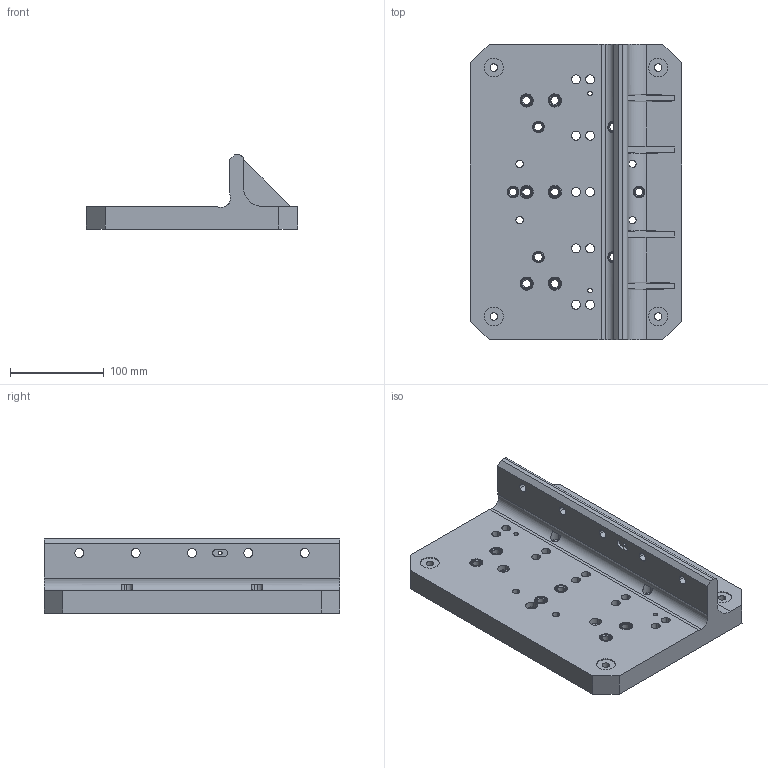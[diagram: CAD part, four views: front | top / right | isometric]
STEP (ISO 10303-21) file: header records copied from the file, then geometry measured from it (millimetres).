
FILE_DESCRIPTION(('STEP AP214'),'1');
FILE_NAME('EGT281_1707366_GUSSTEIL.CATPart.stp','2015-09-14T13:16:24',('3D-Tool'),(' '),'Spatial InterOp 3D',' ',' ');
FILE_SCHEMA(('automotive_design'));
Length unit declared in the file: millimetre
Products named in the file (17): EGT052_1706184_FLANSCHPLATTE_SW80|EGT052_FLANSCHPLATTE_SW80|Bohrbearbeitung; 1; 2; 3; 4; 5; 6; 7; 8; 9; 10; 11; 12; 13; 14; 15; 16
Bounding box: 225 x 315 x 79 mm (x, y, z)
Volume: 1908316 mm3; surface area: 246550.6 mm2
Topology: 13 solids, 13 shells, 472 faces, 1225 edges, 798 vertices
Faces by surface type: cylinder 314, cone 84, plane 74
Entity records: 19629 total; most frequent: CARTESIAN_POINT 3080, DIRECTION 2891, ORIENTED_EDGE 2450, EDGE_CURVE 1225, AXIS2_PLACEMENT_3D 1203, VERTEX_POINT 794, CIRCLE 714, EDGE_LOOP 587
